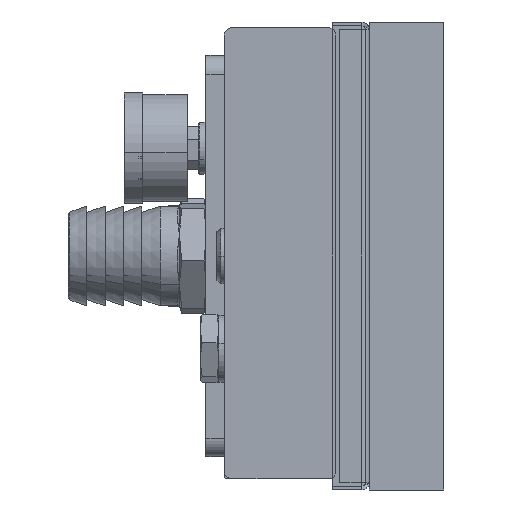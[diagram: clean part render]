
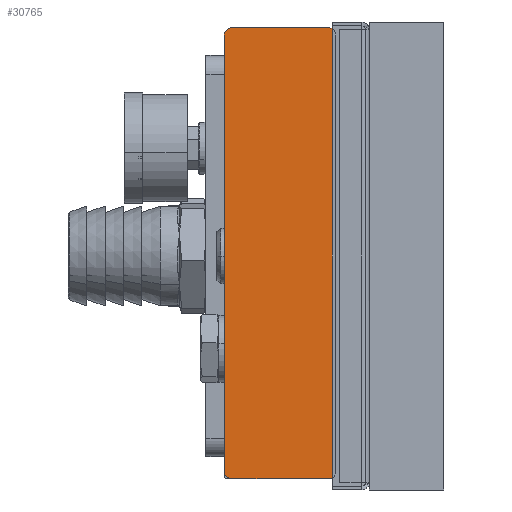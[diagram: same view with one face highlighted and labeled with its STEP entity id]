
A CAD part, left-side view. The second image highlights one B-rep face of the part: STEP entity #30765.
In plain terms, the highlighted planar face has unit normal (-1, 0, 0).
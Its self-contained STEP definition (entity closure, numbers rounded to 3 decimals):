
#231 = CARTESIAN_POINT ( 'NONE',  ( -494.276, -15., -11.989 ) ) ;
#244 = CARTESIAN_POINT ( 'NONE',  ( -494.276, -13., -9.989 ) ) ;
#325 = CARTESIAN_POINT ( 'NONE',  ( -494.276, 15., -129.489 ) ) ;
#333 = CARTESIAN_POINT ( 'NONE',  ( -494.276, -13., -131.489 ) ) ;
#346 = CARTESIAN_POINT ( 'NONE',  ( -494.276, 15., -11.989 ) ) ;
#353 = CARTESIAN_POINT ( 'NONE',  ( -494.276, 13., -9.989 ) ) ;
#357 = CARTESIAN_POINT ( 'NONE',  ( -494.276, 13., -131.489 ) ) ;
#700 = CARTESIAN_POINT ( 'NONE',  ( -494.276, -15., -129.489 ) ) ;
#3903 = AXIS2_PLACEMENT_3D ( 'NONE', #12364, #12365, #12366 ) ;
#5019 = DIRECTION ( 'NONE',  ( 0., -1., 0. ) ) ;
#5031 = CARTESIAN_POINT ( 'NONE',  ( -494.276, -15., -9.989 ) ) ;
#5062 = DIRECTION ( 'NONE',  ( 0., 0., -1. ) ) ;
#5063 = CARTESIAN_POINT ( 'NONE',  ( -494.276, -15., -9.989 ) ) ;
#5075 = DIRECTION ( 'NONE',  ( 0., 1., 0. ) ) ;
#5077 = CARTESIAN_POINT ( 'NONE',  ( -494.276, -15., -131.489 ) ) ;
#5087 = CARTESIAN_POINT ( 'NONE',  ( -494.276, 15., -9.989 ) ) ;
#5092 = DIRECTION ( 'NONE',  ( 0., 0., 1. ) ) ;
#5101 = CARTESIAN_POINT ( 'NONE',  ( -494.276, 13., -129.489 ) ) ;
#5106 = DIRECTION ( 'NONE',  ( -1., 0., 0. ) ) ;
#5108 = DIRECTION ( 'NONE',  ( 0., 0., 1. ) ) ;
#5116 = CARTESIAN_POINT ( 'NONE',  ( -494.276, -13., -129.489 ) ) ;
#5119 = CARTESIAN_POINT ( 'NONE',  ( -494.276, 13., -11.989 ) ) ;
#5121 = DIRECTION ( 'NONE',  ( -1., 0., 0. ) ) ;
#5122 = DIRECTION ( 'NONE',  ( 0., 0., 1. ) ) ;
#5126 = DIRECTION ( 'NONE',  ( -1., 0., 0. ) ) ;
#5129 = CARTESIAN_POINT ( 'NONE',  ( -494.276, -13., -11.989 ) ) ;
#5138 = DIRECTION ( 'NONE',  ( -1., 0., 0. ) ) ;
#5140 = DIRECTION ( 'NONE',  ( 0., 0., 1. ) ) ;
#5142 = DIRECTION ( 'NONE',  ( 0., 0., 1. ) ) ;
#8460 = AXIS2_PLACEMENT_3D ( 'NONE', #5119, #5121, #5122 ) ;
#8461 = AXIS2_PLACEMENT_3D ( 'NONE', #5129, #5126, #5140 ) ;
#8462 = AXIS2_PLACEMENT_3D ( 'NONE', #5116, #5138, #5142 ) ;
#8463 = AXIS2_PLACEMENT_3D ( 'NONE', #5101, #5106, #5108 ) ;
#11554 = EDGE_CURVE ( 'NONE', #40875, #40769, #23299, .T. ) ;
#11557 = EDGE_CURVE ( 'NONE', #40754, #41115, #23304, .T. ) ;
#11560 = EDGE_CURVE ( 'NONE', #40862, #40879, #23310, .T. ) ;
#11564 = EDGE_CURVE ( 'NONE', #40858, #40870, #23318, .T. ) ;
#11566 = EDGE_CURVE ( 'NONE', #40858, #40879, #23322, .T. ) ;
#11567 = EDGE_CURVE ( 'NONE', #40862, #41115, #23312, .T. ) ;
#11568 = EDGE_CURVE ( 'NONE', #40754, #40769, #23325, .T. ) ;
#11569 = EDGE_CURVE ( 'NONE', #40875, #40870, #23326, .T. ) ;
#12352 = PLANE ( 'NONE',  #3903 ) ;
#12364 = CARTESIAN_POINT ( 'NONE',  ( -494.276, 15., -9.989 ) ) ;
#12365 = DIRECTION ( 'NONE',  ( -1., 0., 0. ) ) ;
#12366 = DIRECTION ( 'NONE',  ( 0., 0., 1. ) ) ;
#15641 = FACE_OUTER_BOUND ( 'NONE', #21594, .T. ) ;
#21594 = EDGE_LOOP ( 'NONE', ( #25837, #25969, #25967, #25927, #25946, #25881, #25976, #25890 ) ) ;
#23299 = LINE ( 'NONE', #5031, #23301 ) ;
#23301 = VECTOR ( 'NONE', #5019, 1000. ) ;
#23304 = LINE ( 'NONE', #5063, #23307 ) ;
#23307 = VECTOR ( 'NONE', #5062, 1000. ) ;
#23310 = LINE ( 'NONE', #5077, #23313 ) ;
#23312 = CIRCLE ( 'NONE', #8462, 2. ) ;
#23313 = VECTOR ( 'NONE', #5075, 1000. ) ;
#23318 = LINE ( 'NONE', #5087, #23321 ) ;
#23321 = VECTOR ( 'NONE', #5092, 1000. ) ;
#23322 = CIRCLE ( 'NONE', #8463, 2. ) ;
#23325 = CIRCLE ( 'NONE', #8461, 2. ) ;
#23326 = CIRCLE ( 'NONE', #8460, 2. ) ;
#25837 = ORIENTED_EDGE ( 'NONE', *, *, #11564, .F. ) ;
#25881 = ORIENTED_EDGE ( 'NONE', *, *, #11568, .T. ) ;
#25890 = ORIENTED_EDGE ( 'NONE', *, *, #11569, .T. ) ;
#25927 = ORIENTED_EDGE ( 'NONE', *, *, #11567, .T. ) ;
#25946 = ORIENTED_EDGE ( 'NONE', *, *, #11557, .F. ) ;
#25967 = ORIENTED_EDGE ( 'NONE', *, *, #11560, .F. ) ;
#25969 = ORIENTED_EDGE ( 'NONE', *, *, #11566, .T. ) ;
#25976 = ORIENTED_EDGE ( 'NONE', *, *, #11554, .F. ) ;
#30765 = ADVANCED_FACE ( 'NONE', ( #15641 ), #12352, .T. ) ;
#40754 = VERTEX_POINT ( 'NONE', #231 ) ;
#40769 = VERTEX_POINT ( 'NONE', #244 ) ;
#40858 = VERTEX_POINT ( 'NONE', #325 ) ;
#40862 = VERTEX_POINT ( 'NONE', #333 ) ;
#40870 = VERTEX_POINT ( 'NONE', #346 ) ;
#40875 = VERTEX_POINT ( 'NONE', #353 ) ;
#40879 = VERTEX_POINT ( 'NONE', #357 ) ;
#41115 = VERTEX_POINT ( 'NONE', #700 ) ;
